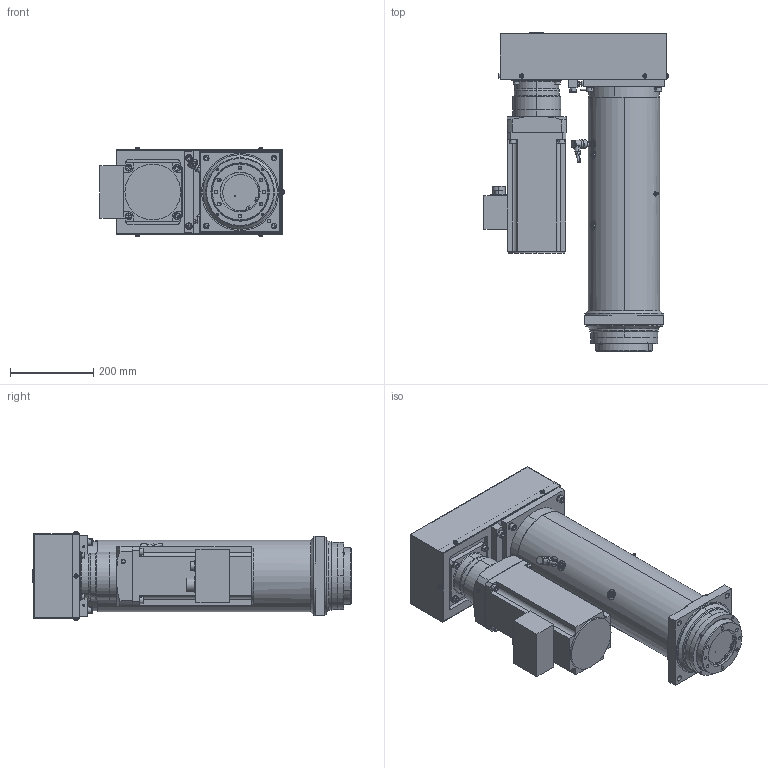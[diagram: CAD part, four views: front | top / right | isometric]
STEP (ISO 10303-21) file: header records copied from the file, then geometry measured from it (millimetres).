
FILE_DESCRIPTION (( 'STEP AP203' ), '1' );
FILE_NAME ('374060.STEP', '2018-10-22T11:45:07', ( '' ), ( '' ), 'SwSTEP 2.0', 'SolidWorks 2016', '' );
FILE_SCHEMA (( 'CONFIG_CONTROL_DESIGN' ));
Products named in the file (1): 374060
Bounding box: 442.37 x 766 x 211.5 mm (x, y, z)
Volume: 15564053.9 mm3; surface area: 2370956.2 mm2
Topology: 58 solids, 59 shells, 1841 faces, 4264 edges, 2583 vertices
Faces by surface type: plane 758, cylinder 699, cone 308, torus 70, bspline 6
Entity records: 57148 total; most frequent: CARTESIAN_POINT 14831, DIRECTION 9329, ORIENTED_EDGE 8216, EDGE_CURVE 4108, AXIS2_PLACEMENT_3D 3621, VERTEX_POINT 2583, EDGE_LOOP 2231, LINE 2087
